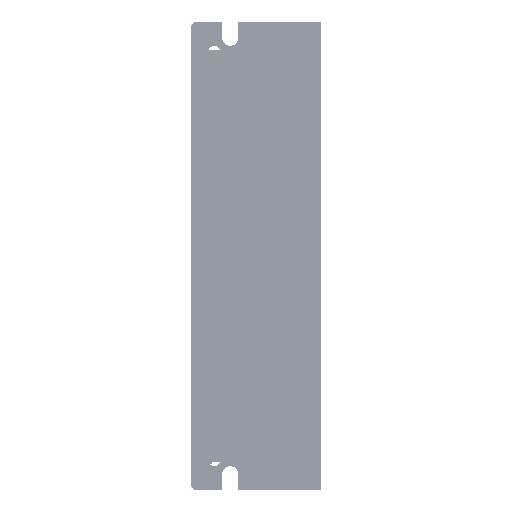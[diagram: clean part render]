
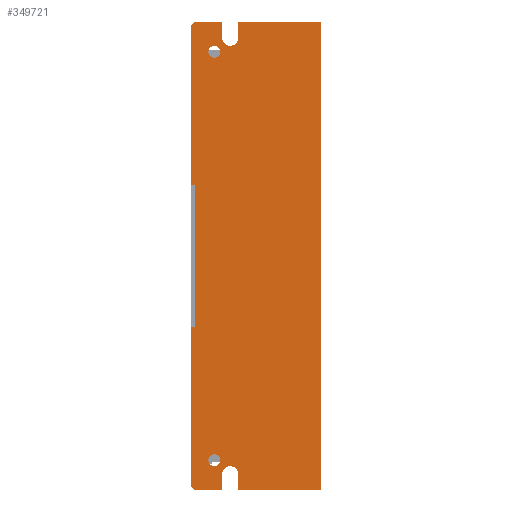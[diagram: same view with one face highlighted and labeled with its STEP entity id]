
A CAD part, left-side view. The second image highlights one B-rep face of the part: STEP entity #349721.
In plain terms, the highlighted planar face has unit normal (-1, 0, 0).
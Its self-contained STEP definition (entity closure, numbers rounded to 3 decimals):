
#1882=DIRECTION('',(0.,0.,-1.));
#1883=VECTOR('',#1882,4.);
#1884=CARTESIAN_POINT('',(-41.25,4.5,4.));
#1885=LINE('',#1884,#1883);
#32875=DIRECTION('',(0.,1.,0.));
#32876=VECTOR('',#32875,21.);
#32877=CARTESIAN_POINT('',(-41.25,-16.5,118.));
#32878=LINE('',#32877,#32876);
#32887=DIRECTION('',(0.,0.,1.));
#32888=VECTOR('',#32887,36.);
#32889=CARTESIAN_POINT('',(-41.25,15.5,41.));
#32890=LINE('',#32889,#32888);
#32891=DIRECTION('',(0.,1.,0.));
#32892=VECTOR('',#32891,1.);
#32893=CARTESIAN_POINT('',(-41.25,15.5,77.));
#32894=LINE('',#32893,#32892);
#32895=DIRECTION('',(0.,-0.707,0.707));
#32896=VECTOR('',#32895,1.414);
#32897=CARTESIAN_POINT('',(-41.25,16.5,117.));
#32898=LINE('',#32897,#32896);
#32899=CARTESIAN_POINT('',(-41.25,6.5,114.));
#32900=DIRECTION('',(-1.,0.,0.));
#32901=DIRECTION('',(0.,1.,0.));
#32902=AXIS2_PLACEMENT_3D('',#32899,#32900,#32901);
#32904=CARTESIAN_POINT('',(-41.25,6.5,114.));
#32905=DIRECTION('',(-1.,0.,0.));
#32906=DIRECTION('',(0.,0.,-1.));
#32907=AXIS2_PLACEMENT_3D('',#32904,#32905,#32906);
#32909=DIRECTION('',(0.,0.,1.));
#32910=VECTOR('',#32909,4.);
#32911=CARTESIAN_POINT('',(-41.25,4.5,114.));
#32912=LINE('',#32911,#32910);
#32913=DIRECTION('',(0.,0.,-1.));
#32914=VECTOR('',#32913,118.);
#32915=CARTESIAN_POINT('',(-41.25,-16.5,118.));
#32916=LINE('',#32915,#32914);
#32917=DIRECTION('',(0.,1.,0.));
#32918=VECTOR('',#32917,21.);
#32919=CARTESIAN_POINT('',(-41.25,-16.5,0.));
#32920=LINE('',#32919,#32918);
#32921=CARTESIAN_POINT('',(-41.25,6.5,4.));
#32922=DIRECTION('',(-1.,0.,0.));
#32923=DIRECTION('',(0.,-1.,0.));
#32924=AXIS2_PLACEMENT_3D('',#32921,#32922,#32923);
#32926=CARTESIAN_POINT('',(-41.25,6.5,4.));
#32927=DIRECTION('',(-1.,0.,0.));
#32928=DIRECTION('',(0.,0.,1.));
#32929=AXIS2_PLACEMENT_3D('',#32926,#32927,#32928);
#32931=DIRECTION('',(0.,0.,-1.));
#32932=VECTOR('',#32931,4.);
#32933=CARTESIAN_POINT('',(-41.25,8.5,4.));
#32934=LINE('',#32933,#32932);
#32935=DIRECTION('',(0.,1.,0.));
#32936=VECTOR('',#32935,7.);
#32937=CARTESIAN_POINT('',(-41.25,8.5,0.));
#32938=LINE('',#32937,#32936);
#32939=DIRECTION('',(0.,0.707,0.707));
#32940=VECTOR('',#32939,1.414);
#32941=CARTESIAN_POINT('',(-41.25,15.5,0.));
#32942=LINE('',#32941,#32940);
#32943=CARTESIAN_POINT('',(-41.25,10.5,110.5));
#32944=DIRECTION('',(-1.,0.,0.));
#32945=DIRECTION('',(0.,0.,1.));
#32946=AXIS2_PLACEMENT_3D('',#32943,#32944,#32945);
#32948=CARTESIAN_POINT('',(-41.25,10.5,110.5));
#32949=DIRECTION('',(-1.,0.,0.));
#32950=DIRECTION('',(0.,0.,-1.));
#32951=AXIS2_PLACEMENT_3D('',#32948,#32949,#32950);
#32953=CARTESIAN_POINT('',(-41.25,10.5,7.5));
#32954=DIRECTION('',(-1.,0.,0.));
#32955=DIRECTION('',(0.,0.,1.));
#32956=AXIS2_PLACEMENT_3D('',#32953,#32954,#32955);
#32958=CARTESIAN_POINT('',(-41.25,10.5,7.5));
#32959=DIRECTION('',(-1.,0.,0.));
#32960=DIRECTION('',(0.,0.,-1.));
#32961=AXIS2_PLACEMENT_3D('',#32958,#32959,#32960);
#33027=DIRECTION('',(0.,0.,1.));
#33028=VECTOR('',#33027,4.);
#33029=CARTESIAN_POINT('',(-41.25,8.5,114.));
#33030=LINE('',#33029,#33028);
#33043=DIRECTION('',(0.,1.,0.));
#33044=VECTOR('',#33043,7.);
#33045=CARTESIAN_POINT('',(-41.25,8.5,118.));
#33046=LINE('',#33045,#33044);
#33051=DIRECTION('',(0.,0.,-1.));
#33052=VECTOR('',#33051,40.);
#33053=CARTESIAN_POINT('',(-41.25,16.5,117.));
#33054=LINE('',#33053,#33052);
#33075=DIRECTION('',(0.,1.,0.));
#33076=VECTOR('',#33075,1.);
#33077=CARTESIAN_POINT('',(-41.25,15.5,41.));
#33078=LINE('',#33077,#33076);
#33083=DIRECTION('',(0.,0.,-1.));
#33084=VECTOR('',#33083,40.);
#33085=CARTESIAN_POINT('',(-41.25,16.5,41.));
#33086=LINE('',#33085,#33084);
#237316=CARTESIAN_POINT('',(-41.25,4.5,0.));
#237318=VERTEX_POINT('',#237316);
#237319=CARTESIAN_POINT('',(-41.25,-16.5,0.));
#237320=VERTEX_POINT('',#237319);
#238354=CARTESIAN_POINT('',(-41.25,15.5,0.));
#238356=VERTEX_POINT('',#238354);
#238357=CARTESIAN_POINT('',(-41.25,8.5,0.));
#238358=VERTEX_POINT('',#238357);
#238363=CARTESIAN_POINT('',(-41.25,4.5,4.));
#238364=VERTEX_POINT('',#238363);
#238411=CARTESIAN_POINT('',(-41.25,10.5,112.));
#238412=CARTESIAN_POINT('',(-41.25,10.5,109.));
#238413=VERTEX_POINT('',#238411);
#238414=VERTEX_POINT('',#238412);
#238415=CARTESIAN_POINT('',(-41.25,15.5,41.));
#238416=CARTESIAN_POINT('',(-41.25,15.5,77.));
#238417=VERTEX_POINT('',#238415);
#238418=VERTEX_POINT('',#238416);
#238419=CARTESIAN_POINT('',(-41.25,16.5,77.));
#238420=VERTEX_POINT('',#238419);
#238421=CARTESIAN_POINT('',(-41.25,16.5,117.));
#238422=VERTEX_POINT('',#238421);
#238423=CARTESIAN_POINT('',(-41.25,15.5,118.));
#238424=VERTEX_POINT('',#238423);
#238425=CARTESIAN_POINT('',(-41.25,8.5,118.));
#238426=VERTEX_POINT('',#238425);
#238427=CARTESIAN_POINT('',(-41.25,8.5,114.));
#238428=VERTEX_POINT('',#238427);
#238429=CARTESIAN_POINT('',(-41.25,6.5,112.));
#238430=CARTESIAN_POINT('',(-41.25,4.5,114.));
#238431=VERTEX_POINT('',#238429);
#238432=VERTEX_POINT('',#238430);
#238433=CARTESIAN_POINT('',(-41.25,4.5,118.));
#238434=VERTEX_POINT('',#238433);
#238435=CARTESIAN_POINT('',(-41.25,-16.5,118.));
#238436=VERTEX_POINT('',#238435);
#238437=CARTESIAN_POINT('',(-41.25,6.5,6.));
#238438=CARTESIAN_POINT('',(-41.25,8.5,4.));
#238439=VERTEX_POINT('',#238437);
#238440=VERTEX_POINT('',#238438);
#238441=CARTESIAN_POINT('',(-41.25,16.5,1.));
#238442=VERTEX_POINT('',#238441);
#238443=CARTESIAN_POINT('',(-41.25,16.5,41.));
#238444=VERTEX_POINT('',#238443);
#238445=CARTESIAN_POINT('',(-41.25,10.5,9.));
#238446=CARTESIAN_POINT('',(-41.25,10.5,6.));
#238447=VERTEX_POINT('',#238445);
#238448=VERTEX_POINT('',#238446);
#349666=CARTESIAN_POINT('',(-41.25,16.5,0.));
#349667=DIRECTION('',(-1.,0.,0.));
#349668=DIRECTION('',(0.,-1.,0.));
#349669=AXIS2_PLACEMENT_3D('',#349666,#349667,#349668);
#349670=PLANE('',#349669);
#349672=ORIENTED_EDGE('',*,*,#349671,.T.);
#349674=ORIENTED_EDGE('',*,*,#349673,.T.);
#349676=ORIENTED_EDGE('',*,*,#349675,.F.);
#349678=ORIENTED_EDGE('',*,*,#349677,.T.);
#349680=ORIENTED_EDGE('',*,*,#349679,.F.);
#349682=ORIENTED_EDGE('',*,*,#349681,.F.);
#349684=ORIENTED_EDGE('',*,*,#349683,.T.);
#349686=ORIENTED_EDGE('',*,*,#349685,.T.);
#349687=ORIENTED_EDGE('',*,*,#349657,.T.);
#349688=ORIENTED_EDGE('',*,*,#349646,.F.);
#349690=ORIENTED_EDGE('',*,*,#349689,.T.);
#349691=ORIENTED_EDGE('',*,*,#315649,.T.);
#349692=ORIENTED_EDGE('',*,*,#316698,.F.);
#349694=ORIENTED_EDGE('',*,*,#349693,.T.);
#349696=ORIENTED_EDGE('',*,*,#349695,.T.);
#349698=ORIENTED_EDGE('',*,*,#349697,.T.);
#349700=ORIENTED_EDGE('',*,*,#349699,.T.);
#349702=ORIENTED_EDGE('',*,*,#349701,.T.);
#349704=ORIENTED_EDGE('',*,*,#349703,.F.);
#349706=ORIENTED_EDGE('',*,*,#349705,.F.);
#349707=EDGE_LOOP('',(#349672,#349674,#349676,#349678,#349680,#349682,#349684,
#349686,#349687,#349688,#349690,#349691,#349692,#349694,#349696,#349698,#349700,
#349702,#349704,#349706));
#349708=FACE_OUTER_BOUND('',#349707,.F.);
#349710=ORIENTED_EDGE('',*,*,#349709,.T.);
#349712=ORIENTED_EDGE('',*,*,#349711,.T.);
#349713=EDGE_LOOP('',(#349710,#349712));
#349714=FACE_BOUND('',#349713,.F.);
#349716=ORIENTED_EDGE('',*,*,#349715,.T.);
#349718=ORIENTED_EDGE('',*,*,#349717,.T.);
#349719=EDGE_LOOP('',(#349716,#349718));
#349720=FACE_BOUND('',#349719,.F.);
#349721=ADVANCED_FACE('',(#349708,#349714,#349720),#349670,.T.);
#32903=CIRCLE('',#32902,2.);
#32908=CIRCLE('',#32907,2.);
#32925=CIRCLE('',#32924,2.);
#32930=CIRCLE('',#32929,2.);
#32947=CIRCLE('',#32946,1.5);
#32952=CIRCLE('',#32951,1.5);
#32957=CIRCLE('',#32956,1.5);
#32962=CIRCLE('',#32961,1.5);
#315649=EDGE_CURVE('',#237320,#237318,#32920,.T.);
#316698=EDGE_CURVE('',#238364,#237318,#1885,.T.);
#349646=EDGE_CURVE('',#238436,#238434,#32878,.T.);
#349657=EDGE_CURVE('',#238432,#238434,#32912,.T.);
#349671=EDGE_CURVE('',#238417,#238418,#32890,.T.);
#349673=EDGE_CURVE('',#238418,#238420,#32894,.T.);
#349675=EDGE_CURVE('',#238422,#238420,#33054,.T.);
#349677=EDGE_CURVE('',#238422,#238424,#32898,.T.);
#349679=EDGE_CURVE('',#238426,#238424,#33046,.T.);
#349681=EDGE_CURVE('',#238428,#238426,#33030,.T.);
#349683=EDGE_CURVE('',#238428,#238431,#32903,.T.);
#349685=EDGE_CURVE('',#238431,#238432,#32908,.T.);
#349689=EDGE_CURVE('',#238436,#237320,#32916,.T.);
#349693=EDGE_CURVE('',#238364,#238439,#32925,.T.);
#349695=EDGE_CURVE('',#238439,#238440,#32930,.T.);
#349697=EDGE_CURVE('',#238440,#238358,#32934,.T.);
#349699=EDGE_CURVE('',#238358,#238356,#32938,.T.);
#349701=EDGE_CURVE('',#238356,#238442,#32942,.T.);
#349703=EDGE_CURVE('',#238444,#238442,#33086,.T.);
#349705=EDGE_CURVE('',#238417,#238444,#33078,.T.);
#349709=EDGE_CURVE('',#238413,#238414,#32947,.T.);
#349711=EDGE_CURVE('',#238414,#238413,#32952,.T.);
#349715=EDGE_CURVE('',#238447,#238448,#32957,.T.);
#349717=EDGE_CURVE('',#238448,#238447,#32962,.T.);
